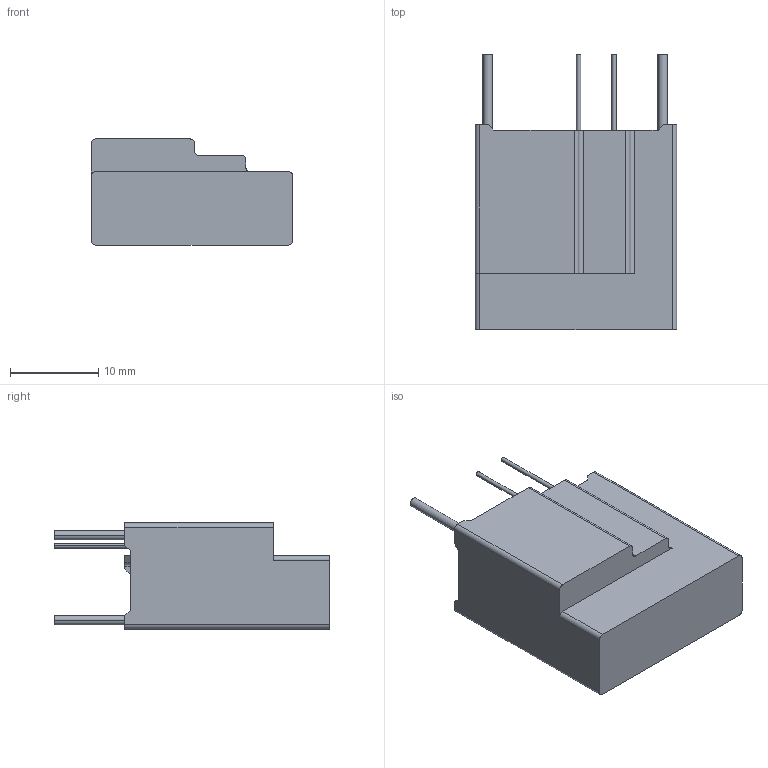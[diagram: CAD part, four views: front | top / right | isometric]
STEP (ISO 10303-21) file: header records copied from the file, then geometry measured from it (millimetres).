
FILE_DESCRIPTION((''),'2;1');
FILE_NAME('20S4501-IT-20200616','2020-06-19T',('set'),(''),'PRO/ENGINEER BY PARAMETRIC TECHNOLOGY CORPORATION, 2012310','PRO/ENGINEER BY PARAMETRIC TECHNOLOGY CORPORATION, 2012310','');
FILE_SCHEMA(('CONFIG_CONTROL_DESIGN','SHAPE_APPEARANCE_LAYERS_GROUPS'));
Length unit declared in the file: millimetre
Products named in the file (1): 20S4501-IT-20200616
Bounding box: 22.8 x 31.2 x 12 mm (x, y, z)
Volume: 1475.2 mm3; surface area: 3826.2 mm2
Topology: 1 solids, 2 shells, 107 faces, 297 edges, 198 vertices
Faces by surface type: plane 79, cylinder 28
Entity records: 3456 total; most frequent: CARTESIAN_POINT 602, ORIENTED_EDGE 594, DIRECTION 567, EDGE_CURVE 297, VECTOR 241, LINE 241, VERTEX_POINT 198, AXIS2_PLACEMENT_3D 163
